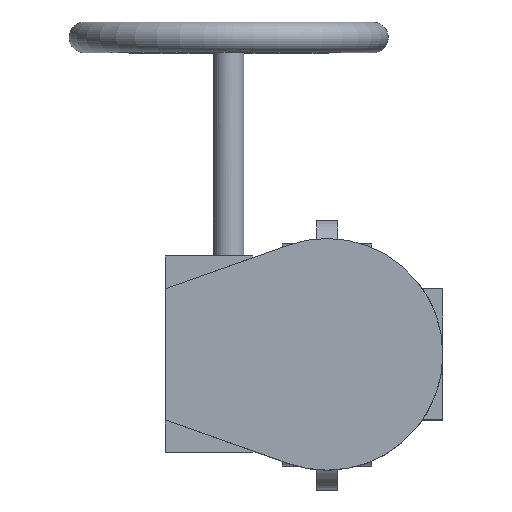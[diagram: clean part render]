
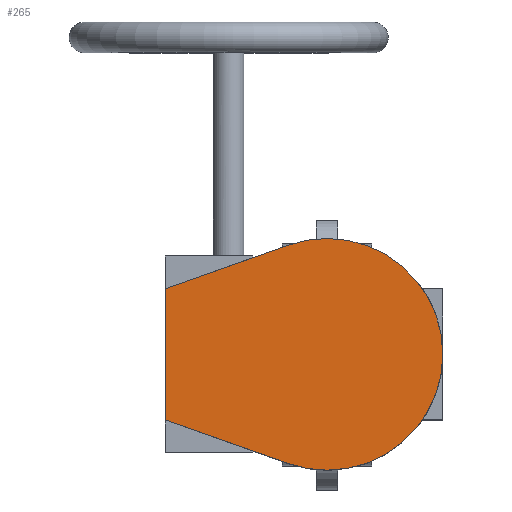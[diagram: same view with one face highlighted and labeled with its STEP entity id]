
A CAD part, top view. The second image highlights one B-rep face of the part: STEP entity #265.
In plain terms, the highlighted planar face has unit normal (0, 0, 1).
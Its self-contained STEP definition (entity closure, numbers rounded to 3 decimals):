
#265=ADVANCED_FACE('',(#5976),#5978,.T.);
#5976=FACE_BOUND('',#5977,.T.);
#5977=EDGE_LOOP('',(#10522,#10523,#10524,#10525));
#5978=PLANE('',#5979);
#5979=AXIS2_PLACEMENT_3D('',#5980,#5981,#5982);
#5980=CARTESIAN_POINT('',(0.,0.,210.));
#5981=DIRECTION('',(0.,0.,1.));
#5982=DIRECTION('',(0.,1.,0.));
#10522=ORIENTED_EDGE('',*,*,#14056,.T.);
#10523=ORIENTED_EDGE('',*,*,#14052,.T.);
#10524=ORIENTED_EDGE('',*,*,#14045,.T.);
#10525=ORIENTED_EDGE('',*,*,#14040,.T.);
#14040=EDGE_CURVE('',#15891,#15889,#15892,.T.);
#14045=EDGE_CURVE('',#15899,#15891,#15900,.T.);
#14052=EDGE_CURVE('',#15912,#15899,#15913,.T.);
#14056=EDGE_CURVE('',#15889,#15912,#15918,.T.);
#15889=VERTEX_POINT('',#18975);
#15891=VERTEX_POINT('',#18979);
#15892=LINE('',#18980,#18981);
#15899=VERTEX_POINT('',#18997);
#15900=LINE('',#18998,#18999);
#15912=VERTEX_POINT('',#19024);
#15913=LINE('',#19025,#19026);
#15918=CIRCLE('',#19038,53.);
#18975=CARTESIAN_POINT('',(-17.708,-49.954,210.));
#18979=CARTESIAN_POINT('',(-74.,-30.,210.));
#18980=CARTESIAN_POINT('',(-74.,-30.,210.));
#18981=VECTOR('',#18982,1.);
#18982=DIRECTION('',(0.943,-0.334,0.));
#18997=CARTESIAN_POINT('',(-74.,30.,210.));
#18998=CARTESIAN_POINT('',(-74.,30.,210.));
#18999=VECTOR('',#19000,1.);
#19000=DIRECTION('',(0.,-1.,0.));
#19024=CARTESIAN_POINT('',(-17.708,49.954,210.));
#19025=CARTESIAN_POINT('',(-17.708,49.954,210.));
#19026=VECTOR('',#19027,1.);
#19027=DIRECTION('',(-0.943,-0.334,0.));
#19038=AXIS2_PLACEMENT_3D('',#19039,#19040,#19041);
#19039=CARTESIAN_POINT('',(0.,0.,210.));
#19040=DIRECTION('',(0.,0.,1.));
#19041=DIRECTION('',(-0.334,-0.943,0.));
